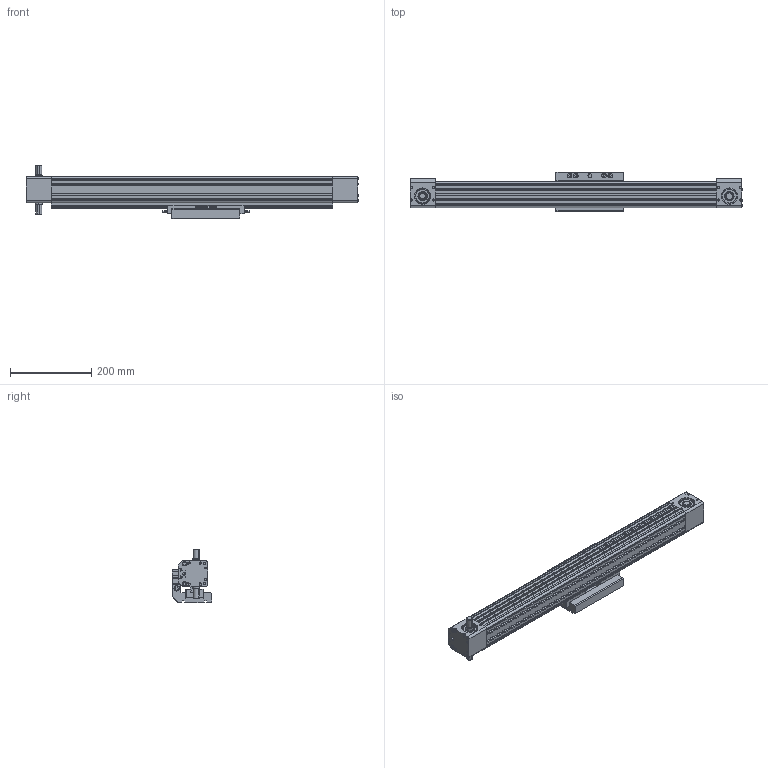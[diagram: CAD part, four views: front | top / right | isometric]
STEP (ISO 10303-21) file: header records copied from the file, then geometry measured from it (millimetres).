
FILE_DESCRIPTION((''),'2;1');
FILE_NAME('TCDH65-S450','2018-02-03T',('lenovo'),(''),'PRO/ENGINEER BY PARAMETRIC TECHNOLOGY CORPORATION, 2010280','PRO/ENGINEER BY PARAMETRIC TECHNOLOGY CORPORATION, 2010280','');
FILE_SCHEMA(('CONFIG_CONTROL_DESIGN'));
Products named in the file (1): TCDH65-S450
Bounding box: 816 x 96.5 x 132.5 mm (x, y, z)
Surface area: 714044.2 mm2 (no closed solid volume)
Topology: 0 solids, 51 shells, 2211 faces, 5887 edges, 3866 vertices
Faces by surface type: plane 1117, cylinder 810, cone 232, torus 52
Entity records: 70131 total; most frequent: CARTESIAN_POINT 13264, DIRECTION 12221, ORIENTED_EDGE 11646, EDGE_CURVE 5887, AXIS2_PLACEMENT_3D 4343, VERTEX_POINT 3866, VECTOR 3535, LINE 3535
